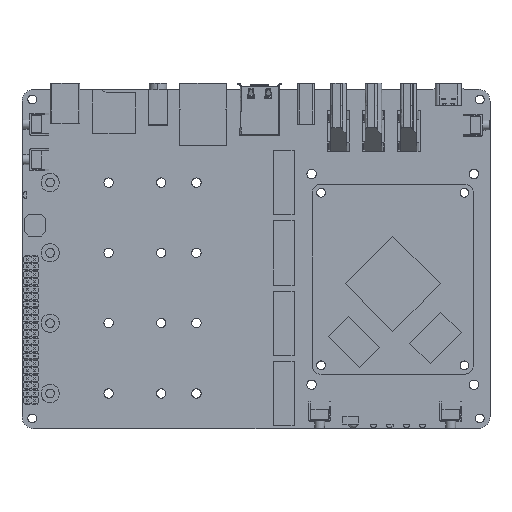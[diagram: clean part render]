
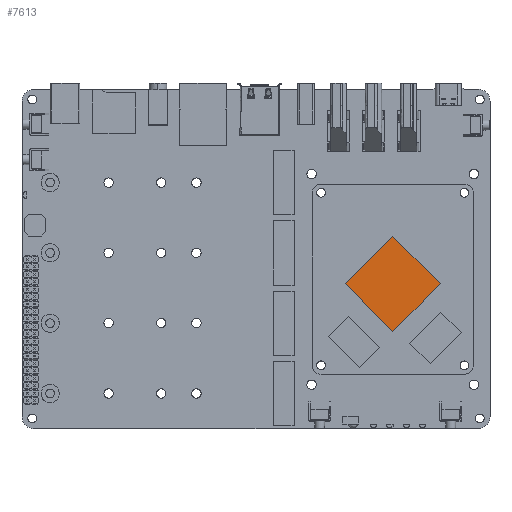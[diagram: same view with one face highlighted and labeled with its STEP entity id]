
A CAD part, top view. The second image highlights one B-rep face of the part: STEP entity #7613.
In plain terms, the highlighted planar face has unit normal (0, 0, 1).
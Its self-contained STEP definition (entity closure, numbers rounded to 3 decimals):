
#7613=ADVANCED_FACE('',(#14268),#108861,.T.);
#14268=FACE_OUTER_BOUND('',#21055,.T.);
#21055=EDGE_LOOP('',(#33411,#33412,#33413,#33414));
#33411=ORIENTED_EDGE('',*,*,#65727,.T.);
#33412=ORIENTED_EDGE('',*,*,#65730,.T.);
#33413=ORIENTED_EDGE('',*,*,#65729,.T.);
#33414=ORIENTED_EDGE('',*,*,#65728,.T.);
#65727=EDGE_CURVE('',#97868,#97871,#83615,.T.);
#65728=EDGE_CURVE('',#97869,#97868,#83616,.T.);
#65729=EDGE_CURVE('',#97870,#97869,#83617,.T.);
#65730=EDGE_CURVE('',#97871,#97870,#83618,.T.);
#83615=B_SPLINE_CURVE_WITH_KNOTS('',1,(#133829,#133830),.UNSPECIFIED.,.F.,
 .F.,(2,2),(92.,115.),.UNSPECIFIED.);
#83616=B_SPLINE_CURVE_WITH_KNOTS('',1,(#133831,#133832),.UNSPECIFIED.,.F.,
 .F.,(2,2),(161.,184.),.UNSPECIFIED.);
#83617=B_SPLINE_CURVE_WITH_KNOTS('',1,(#133833,#133834),.UNSPECIFIED.,.F.,
 .F.,(2,2),(138.,161.),.UNSPECIFIED.);
#83618=B_SPLINE_CURVE_WITH_KNOTS('',1,(#133835,#133836),.UNSPECIFIED.,.F.,
 .F.,(2,2),(115.,138.),.UNSPECIFIED.);
#97868=VERTEX_POINT('',#133821);
#97869=VERTEX_POINT('',#133822);
#97870=VERTEX_POINT('',#133823);
#97871=VERTEX_POINT('',#133824);
#108861=PLANE('',#113408);
#113408=AXIS2_PLACEMENT_3D('',#133815,#117939,$);
#117939=DIRECTION('',(0.,0.,1.));
#133815=CARTESIAN_POINT('',(-670.678,-52.494,6.268));
#133821=CARTESIAN_POINT('',(-670.678,-19.967,6.268));
#133822=CARTESIAN_POINT('',(-654.415,-36.231,6.268));
#133823=CARTESIAN_POINT('',(-670.678,-52.494,6.268));
#133824=CARTESIAN_POINT('',(-686.942,-36.231,6.268));
#133829=CARTESIAN_POINT('',(-670.678,-19.967,6.268));
#133830=CARTESIAN_POINT('',(-686.942,-36.231,6.268));
#133831=CARTESIAN_POINT('',(-654.415,-36.231,6.268));
#133832=CARTESIAN_POINT('',(-670.678,-19.967,6.268));
#133833=CARTESIAN_POINT('',(-670.678,-52.494,6.268));
#133834=CARTESIAN_POINT('',(-654.415,-36.231,6.268));
#133835=CARTESIAN_POINT('',(-686.942,-36.231,6.268));
#133836=CARTESIAN_POINT('',(-670.678,-52.494,6.268));
